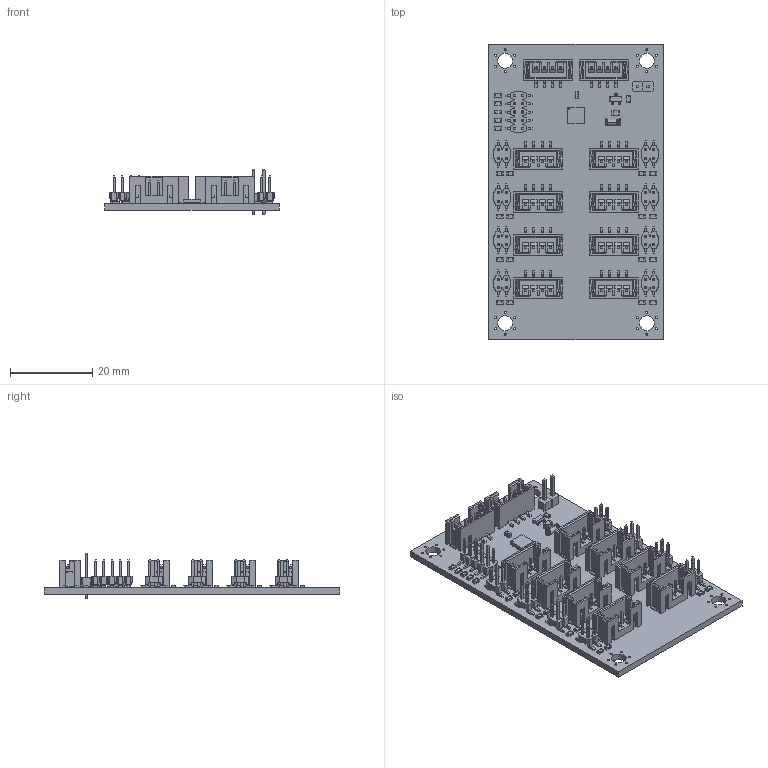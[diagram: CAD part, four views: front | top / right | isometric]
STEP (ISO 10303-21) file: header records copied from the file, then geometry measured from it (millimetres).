
FILE_DESCRIPTION(('Open CASCADE Model'),'2;1');
FILE_NAME('Open CASCADE Shape Model','2025-12-07T10:12:31',('Author'),( 'Open CASCADE'),'Open CASCADE STEP processor 6.8','Open CASCADE 6.8' ,'Unknown');
FILE_SCHEMA(('AUTOMOTIVE_DESIGN { 1 0 10303 214 1 1 1 1 }'));
Length unit declared in the file: millimetre
Products named in the file (67): PCB; Board; J1; CH71102M100-0P; 12P_10; SMT_PIN-PC; J19; 126104ST; BODY; PIN; NAIL; J18; J14; J13; J11; J8; J7; J6; J3; R22; MCR03; R21; R20; R19; R18; R17; R16; R15; R14; R13; R12; R11; R10; R9; R8; R7; R6; R5; R4; R3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
Assembly tree (120 placements, depth 4):
  PCB
    Board
    J1
      CH71102M100-0P
        12P_10
        SMT_PIN-PC  x10
    J19
      126104ST
        BODY
        PIN  x4
        NAIL  x2
    J18
      126104ST
        BODY
        PIN  x4
        NAIL  x2
    J14
      126104ST
        BODY
        PIN  x4
        NAIL  x2
    J13
      126104ST
        BODY
        PIN  x4
        NAIL  x2
    J11
      126104ST
        BODY
        PIN  x4
        NAIL  x2
    J8
      126104ST
        BODY
        PIN  x4
        NAIL  x2
    J7
      126104ST
        BODY
        PIN  x4
        NAIL  x2
    J6
      126104ST
        BODY
        PIN  x4
        NAIL  x2
    J3
      126104ST
        BODY
        PIN  x4
        NAIL  x2
    R22
      MCR03
    R21
      MCR03
    R20
      MCR03
    R19
      MCR03
    R18
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Bounding box: 42.5 x 72 x 11.1 mm (x, y, z)
Volume: 7165.7 mm3; surface area: 15172.9 mm2
Topology: 185 solids, 185 shells, 6274 faces, 16818 edges, 10828 vertices
Faces by surface type: plane 5306, cylinder 892, torus 52, sphere 24
Full cylindrical faces by diameter (mm): 0.5 x24, 1.02 x2, 3.6 x4
Entity records: 39946 total; most frequent: CARTESIAN_POINT 6233, DIRECTION 6183, ORIENTED_EDGE 5982, EDGE_CURVE 2991, LINE 2439, VECTOR 2439, VERTEX_POINT 1890, AXIS2_PLACEMENT_3D 1872
